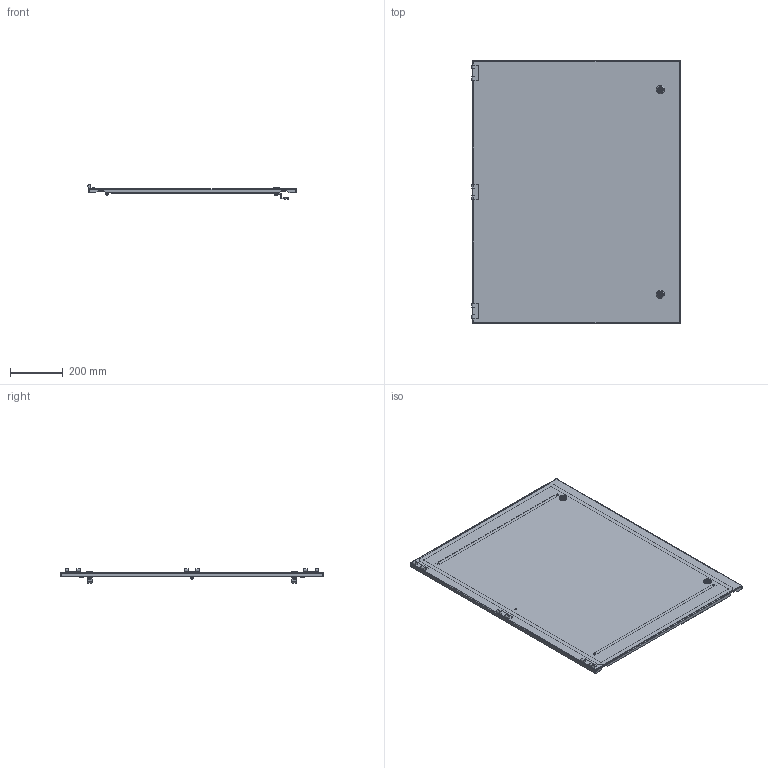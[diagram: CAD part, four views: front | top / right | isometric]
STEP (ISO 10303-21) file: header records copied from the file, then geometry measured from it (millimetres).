
FILE_DESCRIPTION (( 'STEP AP214' ), '1' );
FILE_NAME ('D 100.80 M Äâåðü ñåêöèîííàÿ ãëóõàÿ.STEP', '2016-10-10T07:07:57', ( '' ), ( '' ), 'SwSTEP 2.0', 'SolidWorks 2012', '' );
FILE_SCHEMA (( 'AUTOMOTIVE_DESIGN' ));
Length unit declared in the file: millimetre
Products named in the file (1): D 100.80 M Äâåðü ñåêöèîííàÿ ãëóõàÿ
Bounding box: 788.2 x 994 x 56.33 mm (x, y, z)
Volume: 2091119 mm3; surface area: 1919779.2 mm2
Topology: 12 solids, 12 shells, 731 faces, 1910 edges, 1220 vertices
Faces by surface type: cylinder 310, plane 309, cone 64, bspline 22, torus 18, sphere 8
Entity records: 24063 total; most frequent: CARTESIAN_POINT 5388, DIRECTION 3884, ORIENTED_EDGE 3804, EDGE_CURVE 1902, AXIS2_PLACEMENT_3D 1434, VERTEX_POINT 1220, VECTOR 1016, LINE 1016
